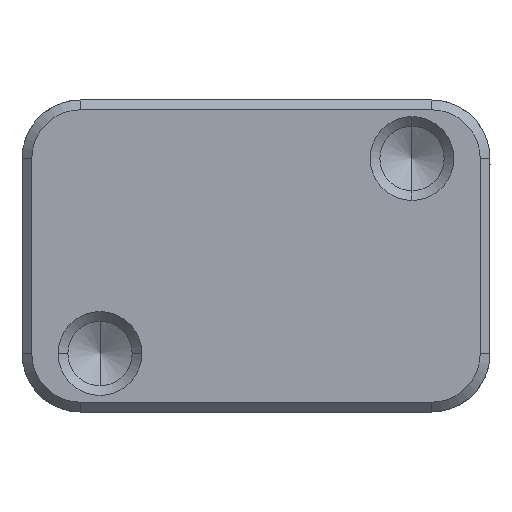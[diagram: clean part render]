
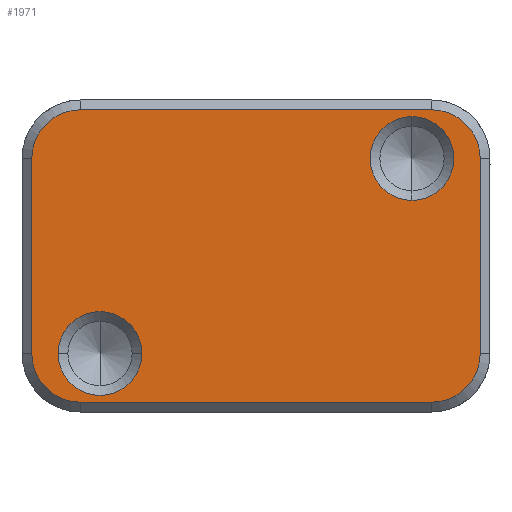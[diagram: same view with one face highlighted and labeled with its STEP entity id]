
A CAD part, front view. The second image highlights one B-rep face of the part: STEP entity #1971.
In plain terms, the highlighted planar face has unit normal (0, -1, 0).
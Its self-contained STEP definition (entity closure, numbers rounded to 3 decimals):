
#183 = DIRECTION ( 'NONE',  ( 0., -1., 0. ) ) ;
#274 = ORIENTED_EDGE ( 'NONE', *, *, #3154, .T. ) ;
#303 = ORIENTED_EDGE ( 'NONE', *, *, #12664, .T. ) ;
#447 = AXIS2_PLACEMENT_3D ( 'NONE', #789, #1609, #7867 ) ;
#455 = DIRECTION ( 'NONE',  ( 0., 0., 1. ) ) ;
#559 = ORIENTED_EDGE ( 'NONE', *, *, #10385, .T. ) ;
#789 = CARTESIAN_POINT ( 'NONE',  ( -9., 0., -5. ) ) ;
#851 = CIRCLE ( 'NONE', #10312, 2.15 ) ;
#888 = DIRECTION ( 'NONE',  ( 0., 0., 1. ) ) ;
#1041 = VERTEX_POINT ( 'NONE', #9055 ) ;
#1062 = LINE ( 'NONE', #4305, #9013 ) ;
#1079 = VERTEX_POINT ( 'NONE', #2805 ) ;
#1152 = FACE_OUTER_BOUND ( 'NONE', #8332, .T. ) ;
#1225 = VERTEX_POINT ( 'NONE', #2948 ) ;
#1275 = CARTESIAN_POINT ( 'NONE',  ( 9., 0., 5. ) ) ;
#1326 = EDGE_LOOP ( 'NONE', ( #2701, #274 ) ) ;
#1357 = EDGE_CURVE ( 'NONE', #1450, #13092, #4047, .T. ) ;
#1450 = VERTEX_POINT ( 'NONE', #4664 ) ;
#1495 = DIRECTION ( 'NONE',  ( 0., 0., -1. ) ) ;
#1539 = CIRCLE ( 'NONE', #11452, 2.15 ) ;
#1609 = DIRECTION ( 'NONE',  ( 0., 1., 0. ) ) ;
#1637 = DIRECTION ( 'NONE',  ( 0., 0., -1. ) ) ;
#1857 = CARTESIAN_POINT ( 'NONE',  ( 11.5, 0., -8. ) ) ;
#1908 = CARTESIAN_POINT ( 'NONE',  ( 9., 0., -5. ) ) ;
#1971 = ADVANCED_FACE ( 'NONE', ( #1152, #9548, #12726 ), #3288, .T. ) ;
#2041 = EDGE_CURVE ( 'NONE', #13092, #1225, #2599, .T. ) ;
#2117 = CARTESIAN_POINT ( 'NONE',  ( -11.5, 0., -5. ) ) ;
#2126 = DIRECTION ( 'NONE',  ( 0., 1., 0. ) ) ;
#2214 = DIRECTION ( 'NONE',  ( 0., 1., 0. ) ) ;
#2228 = CARTESIAN_POINT ( 'NONE',  ( -9., 0., -7.5 ) ) ;
#2244 = VECTOR ( 'NONE', #6531, 1000. ) ;
#2599 = LINE ( 'NONE', #11759, #2244 ) ;
#2701 = ORIENTED_EDGE ( 'NONE', *, *, #5624, .T. ) ;
#2703 = DIRECTION ( 'NONE',  ( 0., 1., 0. ) ) ;
#2805 = CARTESIAN_POINT ( 'NONE',  ( 8., 0., 7.15 ) ) ;
#2848 = DIRECTION ( 'NONE',  ( 1., 0., 0. ) ) ;
#2948 = CARTESIAN_POINT ( 'NONE',  ( -9., 0., 7.5 ) ) ;
#3033 = EDGE_CURVE ( 'NONE', #11382, #8963, #9067, .T. ) ;
#3154 = EDGE_CURVE ( 'NONE', #1079, #11254, #1539, .T. ) ;
#3288 = PLANE ( 'NONE',  #10621 ) ;
#3501 = EDGE_CURVE ( 'NONE', #6619, #7444, #5465, .T. ) ;
#3544 = ORIENTED_EDGE ( 'NONE', *, *, #3033, .T. ) ;
#3572 = DIRECTION ( 'NONE',  ( 0., 1., 0. ) ) ;
#3605 = DIRECTION ( 'NONE',  ( 0., 0., -1. ) ) ;
#3863 = EDGE_CURVE ( 'NONE', #4018, #1041, #7912, .T. ) ;
#4018 = VERTEX_POINT ( 'NONE', #8195 ) ;
#4047 = CIRCLE ( 'NONE', #6034, 2.5 ) ;
#4148 = CARTESIAN_POINT ( 'NONE',  ( 8., 0., 2.85 ) ) ;
#4200 = DIRECTION ( 'NONE',  ( 1., 0., 0. ) ) ;
#4305 = CARTESIAN_POINT ( 'NONE',  ( -12., 0., -7.5 ) ) ;
#4446 = CARTESIAN_POINT ( 'NONE',  ( -11.5, 0., 5. ) ) ;
#4664 = CARTESIAN_POINT ( 'NONE',  ( 11.5, 0., 5. ) ) ;
#4777 = EDGE_CURVE ( 'NONE', #6810, #7444, #10997, .T. ) ;
#5264 = CARTESIAN_POINT ( 'NONE',  ( -10.15, 0., -5. ) ) ;
#5465 = LINE ( 'NONE', #9728, #10767 ) ;
#5557 = ORIENTED_EDGE ( 'NONE', *, *, #2041, .T. ) ;
#5624 = EDGE_CURVE ( 'NONE', #11254, #1079, #851, .T. ) ;
#5979 = DIRECTION ( 'NONE',  ( 0., 0., -1. ) ) ;
#6034 = AXIS2_PLACEMENT_3D ( 'NONE', #1275, #9889, #455 ) ;
#6116 = DIRECTION ( 'NONE',  ( 0., 0., 1. ) ) ;
#6154 = VECTOR ( 'NONE', #888, 1000. ) ;
#6189 = DIRECTION ( 'NONE',  ( 0., 1., 0. ) ) ;
#6274 = CIRCLE ( 'NONE', #7578, 2.15 ) ;
#6312 = ORIENTED_EDGE ( 'NONE', *, *, #13019, .T. ) ;
#6463 = CARTESIAN_POINT ( 'NONE',  ( 9., 0., 7.5 ) ) ;
#6531 = DIRECTION ( 'NONE',  ( -1., 0., 0. ) ) ;
#6619 = VERTEX_POINT ( 'NONE', #4446 ) ;
#6810 = VERTEX_POINT ( 'NONE', #2228 ) ;
#6898 = ORIENTED_EDGE ( 'NONE', *, *, #4777, .F. ) ;
#7444 = VERTEX_POINT ( 'NONE', #2117 ) ;
#7578 = AXIS2_PLACEMENT_3D ( 'NONE', #8957, #2703, #2848 ) ;
#7685 = EDGE_CURVE ( 'NONE', #1041, #6810, #1062, .T. ) ;
#7867 = DIRECTION ( 'NONE',  ( 0., 0., 1. ) ) ;
#7912 = CIRCLE ( 'NONE', #11656, 2.5 ) ;
#8170 = CARTESIAN_POINT ( 'NONE',  ( 8., 0., 5. ) ) ;
#8195 = CARTESIAN_POINT ( 'NONE',  ( 11.5, 0., -5. ) ) ;
#8285 = ORIENTED_EDGE ( 'NONE', *, *, #7685, .F. ) ;
#8332 = EDGE_LOOP ( 'NONE', ( #10061, #559, #8953, #5557, #6312, #8533, #6898, #8285 ) ) ;
#8533 = ORIENTED_EDGE ( 'NONE', *, *, #3501, .T. ) ;
#8928 = CARTESIAN_POINT ( 'NONE',  ( 8., 0., 5. ) ) ;
#8953 = ORIENTED_EDGE ( 'NONE', *, *, #1357, .T. ) ;
#8957 = CARTESIAN_POINT ( 'NONE',  ( -8., 0., -5. ) ) ;
#8963 = VERTEX_POINT ( 'NONE', #5264 ) ;
#9013 = VECTOR ( 'NONE', #9403, 1000. ) ;
#9055 = CARTESIAN_POINT ( 'NONE',  ( 9., 0., -7.5 ) ) ;
#9067 = CIRCLE ( 'NONE', #11275, 2.15 ) ;
#9403 = DIRECTION ( 'NONE',  ( -1., 0., 0. ) ) ;
#9548 = FACE_BOUND ( 'NONE', #12028, .T. ) ;
#9627 = CARTESIAN_POINT ( 'NONE',  ( -5.85, 0., -5. ) ) ;
#9728 = CARTESIAN_POINT ( 'NONE',  ( -11.5, 0., -8. ) ) ;
#9889 = DIRECTION ( 'NONE',  ( 0., -1., 0. ) ) ;
#10061 = ORIENTED_EDGE ( 'NONE', *, *, #3863, .F. ) ;
#10312 = AXIS2_PLACEMENT_3D ( 'NONE', #8170, #6189, #5979 ) ;
#10323 = LINE ( 'NONE', #1857, #6154 ) ;
#10385 = EDGE_CURVE ( 'NONE', #4018, #1450, #10323, .T. ) ;
#10621 = AXIS2_PLACEMENT_3D ( 'NONE', #10991, #11968, #1495 ) ;
#10711 = CARTESIAN_POINT ( 'NONE',  ( -9., 0., 5. ) ) ;
#10767 = VECTOR ( 'NONE', #3605, 1000. ) ;
#10991 = CARTESIAN_POINT ( 'NONE',  ( -12., 0., -8. ) ) ;
#10997 = CIRCLE ( 'NONE', #447, 2.5 ) ;
#11102 = CIRCLE ( 'NONE', #11338, 2.5 ) ;
#11254 = VERTEX_POINT ( 'NONE', #4148 ) ;
#11275 = AXIS2_PLACEMENT_3D ( 'NONE', #12598, #2126, #4200 ) ;
#11338 = AXIS2_PLACEMENT_3D ( 'NONE', #10711, #183, #12727 ) ;
#11382 = VERTEX_POINT ( 'NONE', #9627 ) ;
#11452 = AXIS2_PLACEMENT_3D ( 'NONE', #8928, #3572, #1637 ) ;
#11656 = AXIS2_PLACEMENT_3D ( 'NONE', #1908, #2214, #6116 ) ;
#11759 = CARTESIAN_POINT ( 'NONE',  ( -12., 0., 7.5 ) ) ;
#11968 = DIRECTION ( 'NONE',  ( 0., -1., 0. ) ) ;
#12028 = EDGE_LOOP ( 'NONE', ( #3544, #303 ) ) ;
#12598 = CARTESIAN_POINT ( 'NONE',  ( -8., 0., -5. ) ) ;
#12664 = EDGE_CURVE ( 'NONE', #8963, #11382, #6274, .T. ) ;
#12726 = FACE_BOUND ( 'NONE', #1326, .T. ) ;
#12727 = DIRECTION ( 'NONE',  ( 0., 0., 1. ) ) ;
#13019 = EDGE_CURVE ( 'NONE', #1225, #6619, #11102, .T. ) ;
#13092 = VERTEX_POINT ( 'NONE', #6463 ) ;
